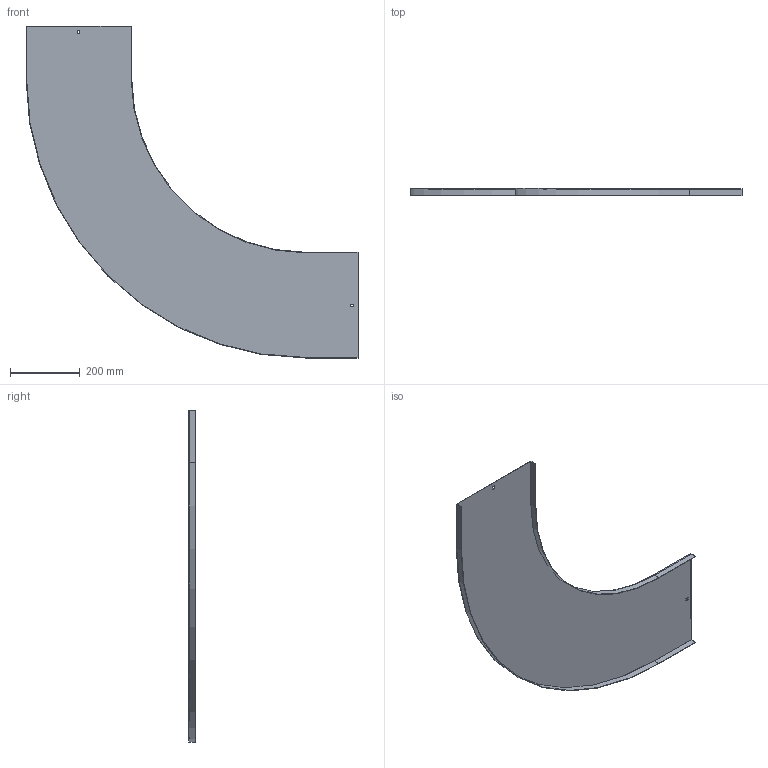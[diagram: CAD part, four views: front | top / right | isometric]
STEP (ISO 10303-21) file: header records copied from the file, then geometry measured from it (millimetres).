
FILE_DESCRIPTION (( 'STEP AP214' ), '1' );
FILE_NAME ('10N5R300.step', '2025-02-21T10:53:15', ( '' ), ( '' ), 'SwSTEP 2.0', 'SolidWorks 2023', '' );
FILE_SCHEMA (( 'AUTOMOTIVE_DESIGN' ));
Length unit declared in the file: millimetre
Products named in the file (1): 10N5R300
Bounding box: 951.5 x 20 x 951.5 mm (x, y, z)
Volume: 673543.5 mm3; surface area: 903134 mm2
Topology: 1 solids, 1 shells, 26 faces, 72 edges, 48 vertices
Faces by surface type: plane 22, cylinder 4
Entity records: 855 total; most frequent: CARTESIAN_POINT 147, ORIENTED_EDGE 144, DIRECTION 134, EDGE_CURVE 72, VECTOR 64, LINE 64, VERTEX_POINT 48, AXIS2_PLACEMENT_3D 35
